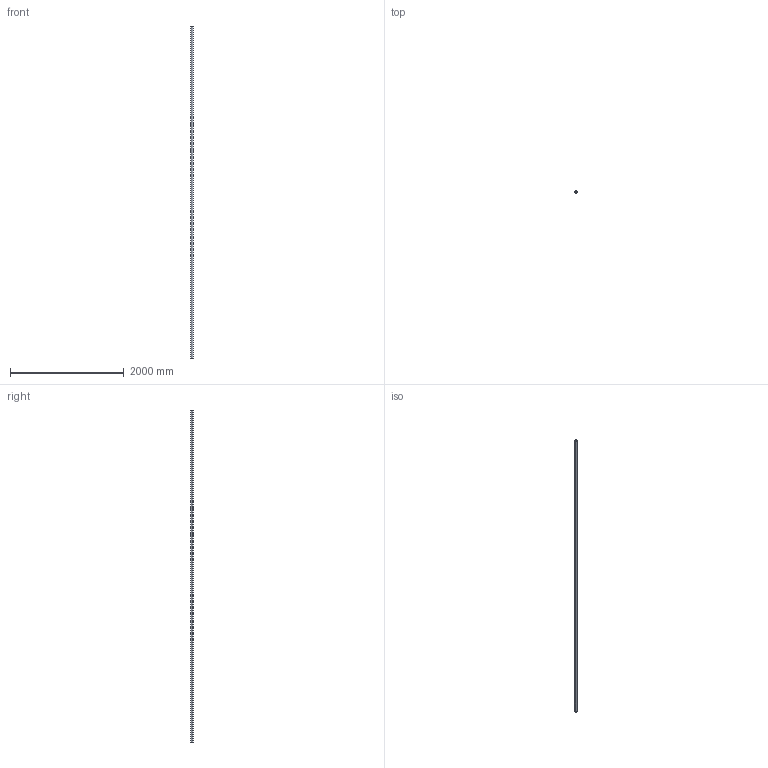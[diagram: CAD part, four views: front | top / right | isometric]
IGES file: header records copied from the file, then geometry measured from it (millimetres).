
Start section: SolidWorks IGES file using analytic representation for surfaces
Global section: file name: C:\Users\IanO\Desktop\L1771_v2\L1771.40_v2\L1771.40_v2_20230705_IGES\L1771.40-5850.igs; native system: SolidWorks 2019; preprocessor: SolidWorks 2019; author: IanO; date: 230705.163411; units: millimetre
Bounding box: 40 x 40 x 5850 mm (x, y, z)
Surface area: 1251007.3 mm2 (no closed solid volume)
Topology: 0 solids, 0 shells, 6 faces, 272 edges, 272 vertices
Faces by surface type: revolution 4, bspline 2
